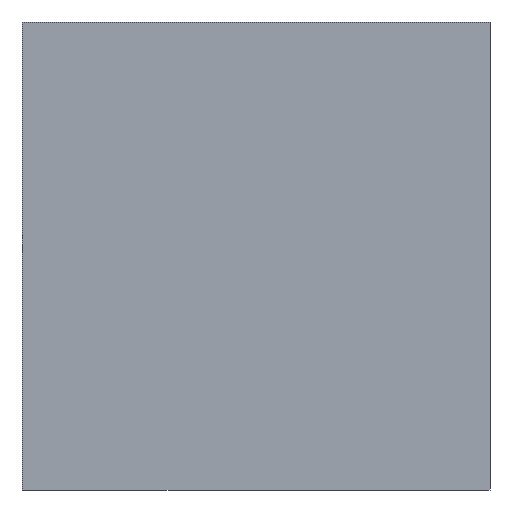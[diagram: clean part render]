
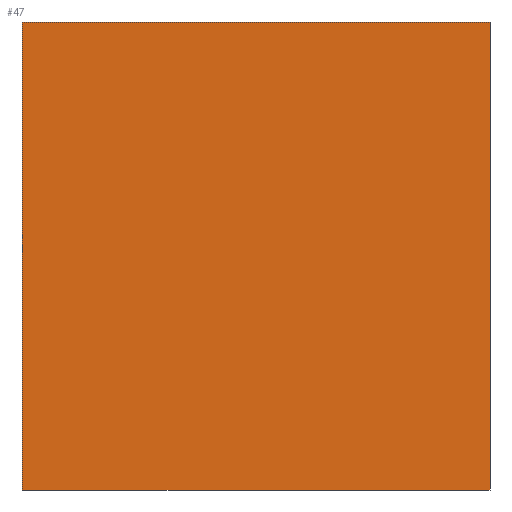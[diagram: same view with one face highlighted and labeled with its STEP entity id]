
A CAD part, left-side view. The second image highlights one B-rep face of the part: STEP entity #47.
In plain terms, the highlighted planar face has unit normal (-1, 0, 0).
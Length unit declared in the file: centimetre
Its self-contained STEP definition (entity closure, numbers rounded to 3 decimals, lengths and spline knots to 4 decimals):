
#4 = FACE_OUTER_BOUND ( 'NONE', #66, .T. ) ;
#15 = EDGE_CURVE ( 'NONE', #275, #270, #530, .T. ) ;
#34 = DIRECTION ( 'NONE',  ( 0., -1., 0. ) ) ;
#47 = ADVANCED_FACE ( 'NONE', ( #4 ), #159, .F. ) ;
#62 = LINE ( 'NONE', #67, #210 ) ;
#66 = EDGE_LOOP ( 'NONE', ( #696, #400, #551, #705 ) ) ;
#67 = CARTESIAN_POINT ( 'NONE',  ( 0., 1000., 1000. ) ) ;
#81 = CARTESIAN_POINT ( 'NONE',  ( 0., 1000., 0. ) ) ;
#84 = EDGE_CURVE ( 'NONE', #335, #270, #180, .T. ) ;
#100 = CARTESIAN_POINT ( 'NONE',  ( 0., 1000., 1000. ) ) ;
#159 = PLANE ( 'NONE',  #487 ) ;
#176 = CARTESIAN_POINT ( 'NONE',  ( 0., 1000., 1000. ) ) ;
#180 = LINE ( 'NONE', #527, #298 ) ;
#210 = VECTOR ( 'NONE', #347, 100. ) ;
#233 = DIRECTION ( 'NONE',  ( 1., 0., 0. ) ) ;
#266 = CARTESIAN_POINT ( 'NONE',  ( 0., 0., 1000. ) ) ;
#270 = VERTEX_POINT ( 'NONE', #555 ) ;
#275 = VERTEX_POINT ( 'NONE', #81 ) ;
#288 = CARTESIAN_POINT ( 'NONE',  ( 0., 1000., 0. ) ) ;
#298 = VECTOR ( 'NONE', #577, 100. ) ;
#328 = CARTESIAN_POINT ( 'NONE',  ( 0., 1000., 1000. ) ) ;
#335 = VERTEX_POINT ( 'NONE', #266 ) ;
#347 = DIRECTION ( 'NONE',  ( 0., 0., -1. ) ) ;
#393 = VECTOR ( 'NONE', #595, 100. ) ;
#395 = VECTOR ( 'NONE', #34, 100. ) ;
#400 = ORIENTED_EDGE ( 'NONE', *, *, #84, .F. ) ;
#487 = AXIS2_PLACEMENT_3D ( 'NONE', #328, #233, #559 ) ;
#527 = CARTESIAN_POINT ( 'NONE',  ( 0., 0., 1000. ) ) ;
#530 = LINE ( 'NONE', #288, #393 ) ;
#539 = EDGE_CURVE ( 'NONE', #621, #335, #707, .T. ) ;
#551 = ORIENTED_EDGE ( 'NONE', *, *, #539, .F. ) ;
#555 = CARTESIAN_POINT ( 'NONE',  ( 0., 0., 0. ) ) ;
#559 = DIRECTION ( 'NONE',  ( 0., 0., -1. ) ) ;
#577 = DIRECTION ( 'NONE',  ( 0., 0., -1. ) ) ;
#595 = DIRECTION ( 'NONE',  ( 0., -1., 0. ) ) ;
#621 = VERTEX_POINT ( 'NONE', #176 ) ;
#649 = EDGE_CURVE ( 'NONE', #621, #275, #62, .T. ) ;
#696 = ORIENTED_EDGE ( 'NONE', *, *, #15, .T. ) ;
#705 = ORIENTED_EDGE ( 'NONE', *, *, #649, .T. ) ;
#707 = LINE ( 'NONE', #100, #395 ) ;
